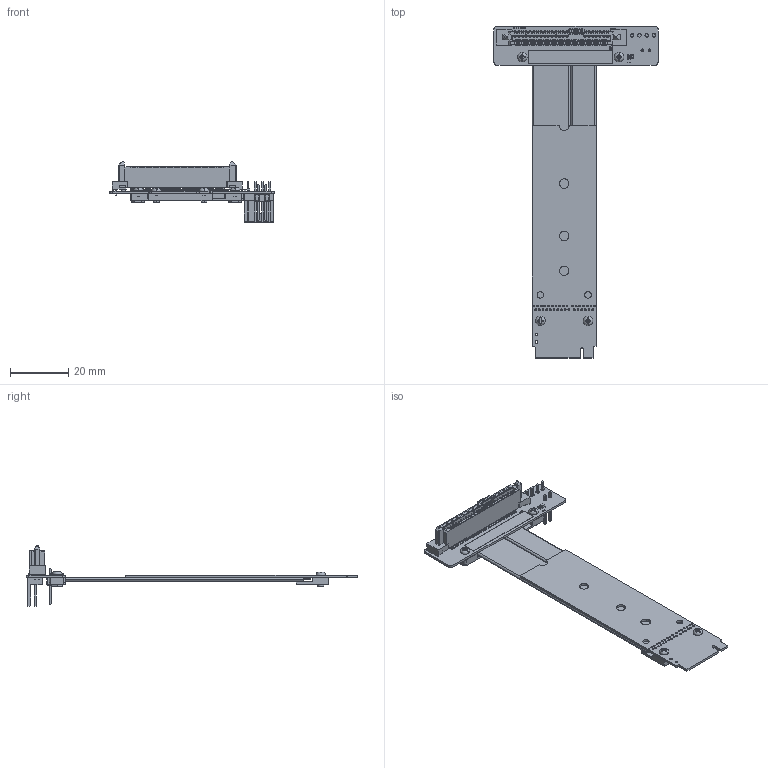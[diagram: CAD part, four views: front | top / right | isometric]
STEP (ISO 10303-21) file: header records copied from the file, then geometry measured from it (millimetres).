
FILE_DESCRIPTION(('Open CASCADE Model'),'2;1');
FILE_NAME('Open CASCADE Shape Model','2020-03-19T23:16:54',('Author'),( 'Open CASCADE'),'Open CASCADE STEP processor 6.8','Open CASCADE 6.8' ,'Unknown');
FILE_SCHEMA(('AUTOMOTIVE_DESIGN { 1 0 10303 214 1 1 1 1 }'));
Length unit declared in the file: millimetre
Products named in the file (23): PCB; Board; Open CASCADE STEP translator 6.8 43.1.1; R1; 萇郯泂えR0603; D1; LED_AP1608; Free-Models; Pin_Header_2x1_TH_Pitch_2.54mm; Open CASCADE STEP translator 6.8 43.4.1.1; Open CASCADE STEP translator 6.8 43.4.1.2; c-171825-4-y-3d_RGB15724527; sff8639_smd_RGB10066329; G0033_RGB14277081; Hexagon_nut_ISO_4032_(DIN_934)_-_M2_RGB9411503; RP22S-PAD; TAPE_RGB0; G0033_RGB9411503; RP44S-PAD; cable13-83_RGB4078660; cable20-83_RGB4078660
Assembly tree (28 placements, depth 4):
  PCB
    Board
      Open CASCADE STEP translator 6.8 43.1.1
    R1
      萇郯泂えR0603
        萇郯泂えR0603
    D1
      LED_AP1608
    Free-Models
      Pin_Header_2x1_TH_Pitch_2.54mm
        Open CASCADE STEP translator 6.8 43.4.1.1
        Open CASCADE STEP translator 6.8 43.4.1.2
      c-171825-4-y-3d_RGB15724527
      sff8639_smd_RGB10066329  x2
      sff8639_smd_RGB10066329
      G0033_RGB14277081  x2
      Hexagon_nut_ISO_4032_(DIN_934)_-_M2_RGB9411503  x4
      RP22S-PAD
      TAPE_RGB0
      G0033_RGB9411503  x2
      RP44S-PAD
      cable13-83_RGB4078660
      cable20-83_RGB4078660
Bounding box: 56.43 x 114.24 x 20.93 mm (x, y, z)
Volume: 8493 mm3; surface area: 21229.1 mm2
Topology: 95 solids, 95 shells, 11118 faces, 29057 edges, 18633 vertices
Faces by surface type: plane 8074, cylinder 1845, bspline 999, torus 132, cone 54, revolution 14
Full cylindrical faces by diameter (mm): 0.254 x33, 0.6 x73, 0.8 x3, 0.9 x5, 1.2 x7, 1.3 x1, 2.2 x9, 2.216 x1, 3.3 x3, 4.8 x4
Entity records: 328539 total; most frequent: CARTESIAN_POINT 73327, ORIENTED_EDGE 40630, DIRECTION 34278, EDGE_CURVE 20315, LINE 14894, VECTOR 14894, VERTEX_POINT 13031, AXIS2_PLACEMENT_3D 9688
